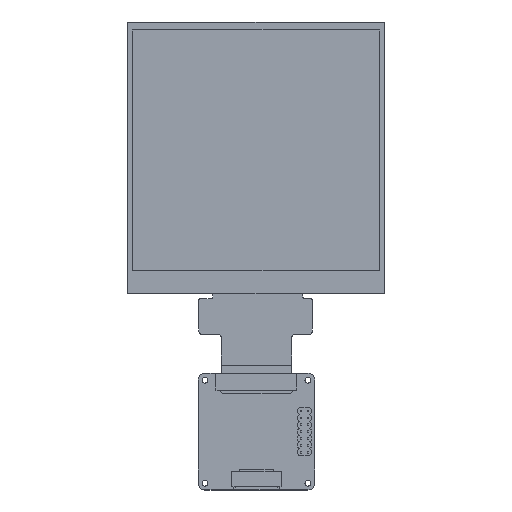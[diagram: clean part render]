
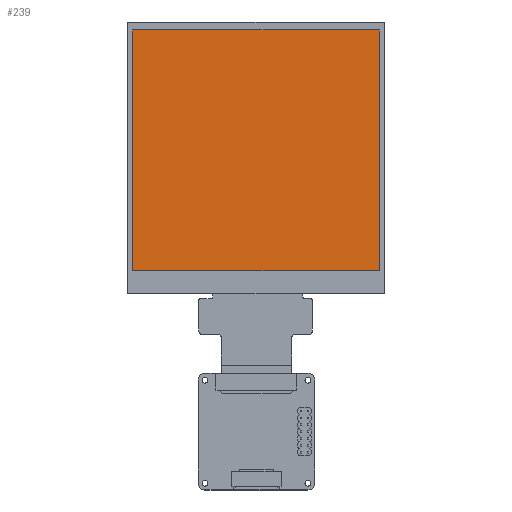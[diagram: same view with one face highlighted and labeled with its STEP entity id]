
A CAD part, top view. The second image highlights one B-rep face of the part: STEP entity #239.
In plain terms, the highlighted planar face has unit normal (0, 0, 1).
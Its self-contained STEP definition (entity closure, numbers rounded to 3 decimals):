
#87=DIRECTION('',(1.,0.,0.));
#88=VECTOR('',#87,71.86);
#89=CARTESIAN_POINT('',(-35.935,37.16,1.92));
#90=LINE('',#89,#88);
#91=DIRECTION('',(0.,1.,0.));
#92=VECTOR('',#91,70.18);
#93=CARTESIAN_POINT('',(-35.935,-33.02,1.92));
#94=LINE('',#93,#92);
#95=DIRECTION('',(-1.,0.,0.));
#96=VECTOR('',#95,71.86);
#97=CARTESIAN_POINT('',(35.925,-33.02,1.92));
#98=LINE('',#97,#96);
#99=DIRECTION('',(0.,-1.,0.));
#100=VECTOR('',#99,70.18);
#101=CARTESIAN_POINT('',(35.925,37.16,1.92));
#102=LINE('',#101,#100);
#119=CARTESIAN_POINT('',(-35.935,37.16,1.92));
#120=CARTESIAN_POINT('',(35.925,37.16,1.92));
#121=VERTEX_POINT('',#119);
#122=VERTEX_POINT('',#120);
#123=CARTESIAN_POINT('',(35.925,-33.02,1.92));
#124=VERTEX_POINT('',#123);
#125=CARTESIAN_POINT('',(-35.935,-33.02,1.92));
#126=VERTEX_POINT('',#125);
#228=CARTESIAN_POINT('',(0.,0.,1.92));
#229=DIRECTION('',(0.,0.,1.));
#230=DIRECTION('',(1.,0.,0.));
#231=AXIS2_PLACEMENT_3D('',#228,#229,#230);
#232=PLANE('',#231);
#233=ORIENTED_EDGE('',*,*,#210,.T.);
#234=ORIENTED_EDGE('',*,*,#216,.T.);
#235=ORIENTED_EDGE('',*,*,#214,.T.);
#236=ORIENTED_EDGE('',*,*,#212,.T.);
#237=EDGE_LOOP('',(#233,#234,#235,#236));
#238=FACE_OUTER_BOUND('',#237,.F.);
#210=EDGE_CURVE('',#121,#122,#90,.T.);
#212=EDGE_CURVE('',#126,#121,#94,.T.);
#214=EDGE_CURVE('',#124,#126,#98,.T.);
#216=EDGE_CURVE('',#122,#124,#102,.T.);
#239=ADVANCED_FACE('',(#238),#232,.T.);
